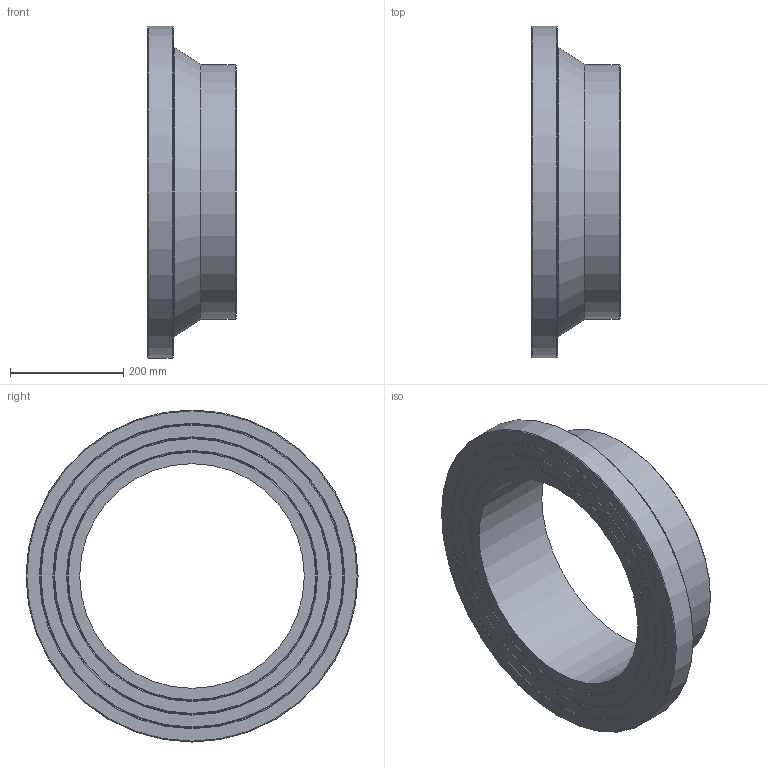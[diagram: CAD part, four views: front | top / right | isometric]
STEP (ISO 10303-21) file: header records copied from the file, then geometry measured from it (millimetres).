
FILE_DESCRIPTION(/* description */ ('Unknown'),/* implementation_level */ '2;1');
FILE_NAME(/* name */ 'CCP450B',/* time_stamp */ '2022-04-05T08:33:58+02:00',/* author */ ('Unknown'),/* organization */ ('Unknown'),/* preprocessor_version */ 'ST-DEVELOPER v18.1',/* originating_system */ 'Solid Edge',/* authorisation */ 'Unknown');
FILE_SCHEMA (('AUTOMOTIVE_DESIGN {1 0 10303 214 3 1 1}'));
Length unit declared in the file: millimetre
Products named in the file (1): CCP450B
Bounding box: 157 x 586 x 586 mm (x, y, z)
Volume: 11701616.9 mm3; surface area: 697140.1 mm2
Topology: 1 solids, 1 shells, 20 faces, 35 edges, 21 vertices
Faces by surface type: cone 10, plane 6, cylinder 3, torus 1
Full cylindrical faces by diameter (mm): 396.6 x1, 450 x1, 586 x1
Entity records: 438 total; most frequent: DIRECTION 82, CARTESIAN_POINT 61, AXIS2_PLACEMENT_3D 41, ORIENTED_EDGE 40, EDGE_LOOP 40, FACE_BOUND 40, EDGE_CURVE 20, VERTEX_POINT 20
